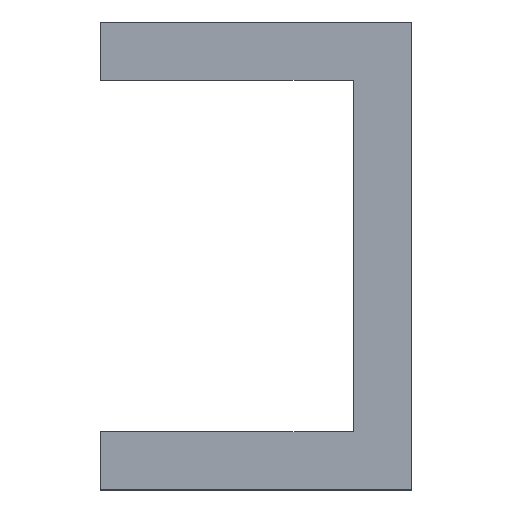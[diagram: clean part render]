
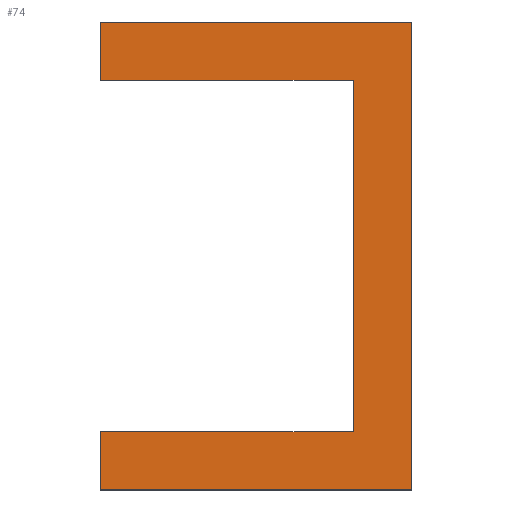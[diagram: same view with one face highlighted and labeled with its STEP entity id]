
A CAD part, left-side view. The second image highlights one B-rep face of the part: STEP entity #74.
In plain terms, the highlighted planar face has unit normal (-1, 0, 0).
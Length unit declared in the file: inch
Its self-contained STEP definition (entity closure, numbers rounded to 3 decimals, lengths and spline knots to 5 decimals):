
#1 = CARTESIAN_POINT ( 'NONE',  ( -1.63098, -0.61025, 0.301 ) ) ;
#4 = VECTOR ( 'NONE', #154, 39.37008 ) ;
#11 = ORIENTED_EDGE ( 'NONE', *, *, #118, .T. ) ;
#26 = EDGE_CURVE ( 'NONE', #179, #48, #220, .T. ) ;
#30 = CARTESIAN_POINT ( 'NONE',  ( -1.63098, -0.1, 0.401 ) ) ;
#38 = VECTOR ( 'NONE', #358, 39.37008 ) ;
#40 = DIRECTION ( 'NONE',  ( 1., 0., 0. ) ) ;
#41 = CARTESIAN_POINT ( 'NONE',  ( -1.63098, 0.433, -0.301 ) ) ;
#42 = CARTESIAN_POINT ( 'NONE',  ( -1.63098, 0.433, 0.401 ) ) ;
#48 = VERTEX_POINT ( 'NONE', #463 ) ;
#49 = LINE ( 'NONE', #78, #189 ) ;
#65 = ORIENTED_EDGE ( 'NONE', *, *, #98, .F. ) ;
#66 = EDGE_LOOP ( 'NONE', ( #65, #207, #328, #442, #100, #11, #384, #91 ) ) ;
#74 = ADVANCED_FACE ( 'NONE', ( #153 ), #261, .F. ) ;
#78 = CARTESIAN_POINT ( 'NONE',  ( -1.63098, -0.61025, -0.301 ) ) ;
#81 = CARTESIAN_POINT ( 'NONE',  ( -1.63098, 0.433, -0.401 ) ) ;
#89 = EDGE_CURVE ( 'NONE', #269, #422, #296, .T. ) ;
#91 = ORIENTED_EDGE ( 'NONE', *, *, #291, .F. ) ;
#98 = EDGE_CURVE ( 'NONE', #241, #212, #101, .T. ) ;
#100 = ORIENTED_EDGE ( 'NONE', *, *, #264, .F. ) ;
#101 = LINE ( 'NONE', #251, #403 ) ;
#118 = EDGE_CURVE ( 'NONE', #350, #48, #341, .T. ) ;
#119 = DIRECTION ( 'NONE',  ( 0., 1., 0. ) ) ;
#122 = CARTESIAN_POINT ( 'NONE',  ( -1.63098, 0.433, -0.401 ) ) ;
#127 = LINE ( 'NONE', #275, #134 ) ;
#134 = VECTOR ( 'NONE', #193, 39.37008 ) ;
#140 = CARTESIAN_POINT ( 'NONE',  ( -1.63098, 0., -0.301 ) ) ;
#153 = FACE_OUTER_BOUND ( 'NONE', #66, .T. ) ;
#154 = DIRECTION ( 'NONE',  ( 0., 1., 0. ) ) ;
#156 = AXIS2_PLACEMENT_3D ( 'NONE', #222, #40, #370 ) ;
#175 = VECTOR ( 'NONE', #196, 39.37008 ) ;
#179 = VERTEX_POINT ( 'NONE', #188 ) ;
#188 = CARTESIAN_POINT ( 'NONE',  ( -1.63098, -0.1, 0.401 ) ) ;
#189 = VECTOR ( 'NONE', #119, 39.37008 ) ;
#193 = DIRECTION ( 'NONE',  ( 0., -1., 0. ) ) ;
#196 = DIRECTION ( 'NONE',  ( 0., -1., 0. ) ) ;
#207 = ORIENTED_EDGE ( 'NONE', *, *, #221, .F. ) ;
#212 = VERTEX_POINT ( 'NONE', #42 ) ;
#214 = CARTESIAN_POINT ( 'NONE',  ( -1.63098, 0., 0.301 ) ) ;
#220 = LINE ( 'NONE', #30, #38 ) ;
#221 = EDGE_CURVE ( 'NONE', #422, #241, #305, .T. ) ;
#222 = CARTESIAN_POINT ( 'NONE',  ( -1.63098, 0.433, -0.301 ) ) ;
#223 = VECTOR ( 'NONE', #268, 39.37008 ) ;
#224 = LINE ( 'NONE', #41, #223 ) ;
#225 = CARTESIAN_POINT ( 'NONE',  ( -1.63098, 0., -0.301 ) ) ;
#238 = EDGE_CURVE ( 'NONE', #269, #416, #49, .T. ) ;
#240 = CARTESIAN_POINT ( 'NONE',  ( -1.63098, 0.433, -0.301 ) ) ;
#241 = VERTEX_POINT ( 'NONE', #342 ) ;
#251 = CARTESIAN_POINT ( 'NONE',  ( -1.63098, 0.433, -0.301 ) ) ;
#261 = PLANE ( 'NONE',  #156 ) ;
#264 = EDGE_CURVE ( 'NONE', #350, #416, #224, .T. ) ;
#268 = DIRECTION ( 'NONE',  ( 0., 0., 1. ) ) ;
#269 = VERTEX_POINT ( 'NONE', #225 ) ;
#275 = CARTESIAN_POINT ( 'NONE',  ( -1.63098, 0.433, 0.401 ) ) ;
#291 = EDGE_CURVE ( 'NONE', #212, #179, #127, .T. ) ;
#296 = LINE ( 'NONE', #140, #470 ) ;
#305 = LINE ( 'NONE', #1, #4 ) ;
#328 = ORIENTED_EDGE ( 'NONE', *, *, #89, .F. ) ;
#341 = LINE ( 'NONE', #122, #175 ) ;
#342 = CARTESIAN_POINT ( 'NONE',  ( -1.63098, 0.433, 0.301 ) ) ;
#350 = VERTEX_POINT ( 'NONE', #81 ) ;
#358 = DIRECTION ( 'NONE',  ( 0., 0., -1. ) ) ;
#362 = DIRECTION ( 'NONE',  ( 0., 0., 1. ) ) ;
#370 = DIRECTION ( 'NONE',  ( 0., 0., -1. ) ) ;
#384 = ORIENTED_EDGE ( 'NONE', *, *, #26, .F. ) ;
#403 = VECTOR ( 'NONE', #462, 39.37008 ) ;
#416 = VERTEX_POINT ( 'NONE', #240 ) ;
#422 = VERTEX_POINT ( 'NONE', #214 ) ;
#442 = ORIENTED_EDGE ( 'NONE', *, *, #238, .T. ) ;
#462 = DIRECTION ( 'NONE',  ( 0., 0., 1. ) ) ;
#463 = CARTESIAN_POINT ( 'NONE',  ( -1.63098, -0.1, -0.401 ) ) ;
#470 = VECTOR ( 'NONE', #362, 39.37008 ) ;
